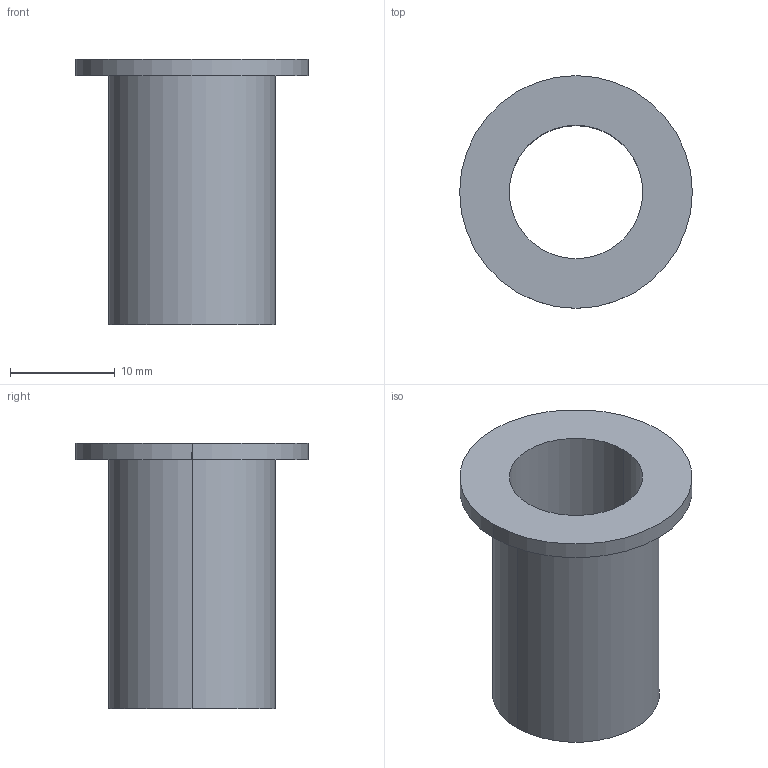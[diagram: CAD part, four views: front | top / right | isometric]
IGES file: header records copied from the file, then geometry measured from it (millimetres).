
Global section: file name: C:\Documents and Settings\Administrator\Desktop\Transfer Temp\bushing-fbb-8-16.igs; native system: AutoDesk Inventor R2.0 ; preprocessor: AutoDesk Inventor Iges Exporter R2.0; author: No Author specified; organization: No Organization specified; date: 20011227.203456; units: inch
Bounding box: 22.23 x 22.23 x 25.4 mm (x, y, z)
Surface area: 2840.2 mm2 (no closed solid volume)
Topology: 0 solids, 0 shells, 9 faces, 36 edges, 36 vertices
Faces by surface type: revolution 6, bspline 3
